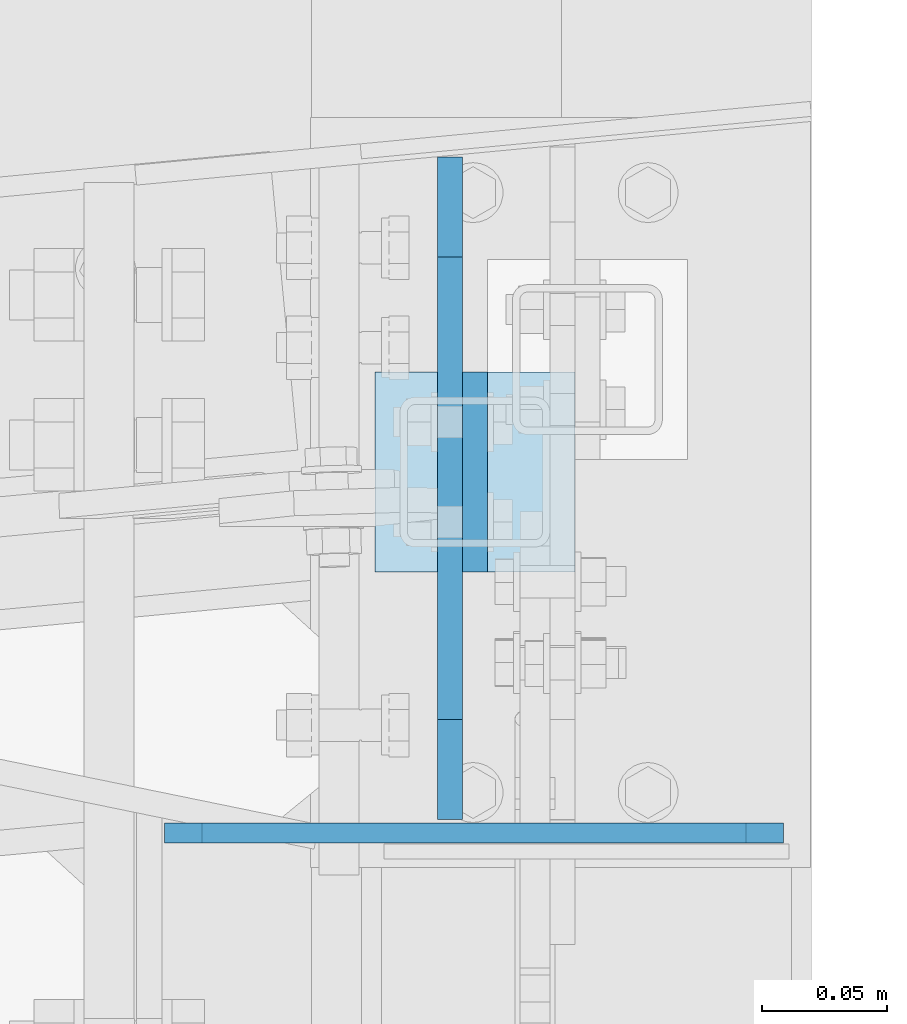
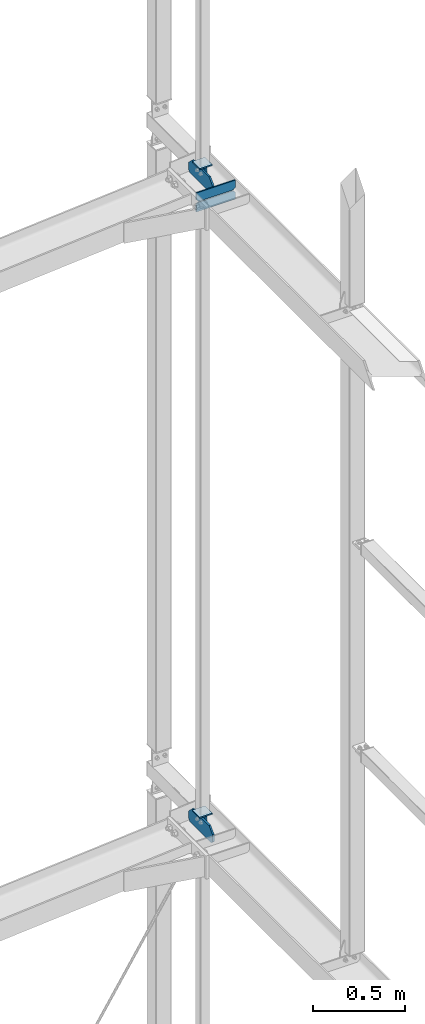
# One storey, part 193 of 271: 8 plates, 4 elements without a shape of their own.
"""IFC2X3 building model written with IfcOpenShell, lengths in millimetres."""

import ifcopenshell
import ifcopenshell.guid

model = None  # the IFC model being written
_history = None  # IfcOwnerHistory: only IFC2X3 demands one
_inside = {}  # id of a spatial element -> (the spatial element, [elements in it])
_under = {}  # id of a project, library or spatial element -> (it, [spatial elements below it])
_declared = {}  # id of a project -> (the project, [libraries it declares])
_typed = {}  # id of a type object -> (the type object, [elements of that type])
_made_of = {}  # id of a material, layer set ... -> (it, [elements and type objects made of it])


def new_model(schema):
    """Start an empty IFC model of exactly this schema.

    Asked for "IFC4X3", IfcOpenShell would pick the latest addendum, in which some entities
    have other attributes; the version numbers below select the first issue.
    IFC2X3 requires an IfcOwnerHistory on every rooted entity: one is made here for all.
    """
    global model, _history
    if schema == "IFC4X3":
        model = ifcopenshell.file(schema_version=(4, 3, 0, 0))
    else:
        model = ifcopenshell.file(schema=schema)
    _inside.clear()
    _under.clear()
    _declared.clear()
    _typed.clear()
    _made_of.clear()
    _history = None
    if model.schema == "IFC2X3":
        org = make("IfcOrganization", Name="unknown")
        user = make(
            "IfcPersonAndOrganization",
            ThePerson=make("IfcPerson", FamilyName="unknown"),
            TheOrganization=org,
        )
        app = make(
            "IfcApplication",
            ApplicationDeveloper=org,
            Version="unknown",
            ApplicationFullName="unknown",
            ApplicationIdentifier="unknown",
        )
        _history = make(
            "IfcOwnerHistory",
            OwningUser=user,
            OwningApplication=app,
            ChangeAction="ADDED",
            CreationDate=0,
        )
    return model


def make(cls, **values):
    """One entity of the class cls with the attributes given. An attribute that is None is left unset."""
    return model.create_entity(
        cls, **{name: value for name, value in values.items() if value is not None}
    )


def rooted(cls, **values):
    """An entity with a GlobalId (a new one), such as an element, a storey or a relation."""
    return make(cls, GlobalId=ifcopenshell.guid.new(), OwnerHistory=_history, **values)


def si_unit(unit_type, name, prefix=None):
    """IfcSIUnit, for example si_unit("LENGTHUNIT", "METRE", prefix="MILLI")."""
    return make("IfcSIUnit", UnitType=unit_type, Prefix=prefix, Name=name)


def assignment(units):
    """IfcUnitAssignment: the units of a project."""
    return None if units is None else make("IfcUnitAssignment", Units=units)


def point(xyz):
    """IfcCartesianPoint."""
    return None if xyz is None else make("IfcCartesianPoint", Coordinates=xyz)


def direction(xyz):
    """IfcDirection."""
    return None if xyz is None else make("IfcDirection", DirectionRatios=xyz)


def frame(location, z_axis=None, x_axis=None):
    """IfcAxis2Placement3D, a coordinate frame: its origin and axes. An axis left out is left unset."""
    return make(
        "IfcAxis2Placement3D",
        Location=point(location),
        Axis=direction(z_axis),
        RefDirection=direction(x_axis),
    )


def origin_with_axes():
    """The frame at (0, 0, 0) with the z axis (0, 0, 1) and the x axis (1, 0, 0) written out."""
    return frame((0.0, 0.0, 0.0), z_axis=(0.0, 0.0, 1.0), x_axis=(1.0, 0.0, 0.0))


def place(relative_to, where):
    """IfcLocalPlacement: puts the frame where relative to a parent placement (None: the world)."""
    return make(
        "IfcLocalPlacement", PlacementRelTo=relative_to, RelativePlacement=where
    )


def context(
    kind, dimensions, precision=None, world=None, true_north=None, identifier=None
):
    """IfcGeometricRepresentationContext, for example the 3D "Model" context."""
    return make(
        "IfcGeometricRepresentationContext",
        ContextIdentifier=identifier,
        ContextType=kind,
        CoordinateSpaceDimension=dimensions,
        Precision=precision,
        WorldCoordinateSystem=world,
        TrueNorth=true_north,
    )


def subcontext(parent, identifier, kind, view, scale=None):
    """IfcGeometricRepresentationSubContext, for example "Body" below "Model"."""
    return make(
        "IfcGeometricRepresentationSubContext",
        ContextIdentifier=identifier,
        ContextType=kind,
        ParentContext=parent,
        TargetScale=scale,
        TargetView=view,
    )


def project(units=None, contexts=None):
    """IfcProject with its units and contexts."""
    return rooted(
        "IfcProject",
        Name="project",
        RepresentationContexts=contexts,
        UnitsInContext=assignment(units),
    )


def spatial(cls, under=None, at=None, **own):
    """A site, building, storey or space (cls), placed at a placement, below another one or the project."""
    s = rooted(cls, ObjectPlacement=at, **own)
    if under is not None:
        _under.setdefault(under.id(), (under, []))[1].append(s)
    return s


def polyline(points):
    """IfcPolyline through the points."""
    return make("IfcPolyline", Points=[point(p) for p in points])


def outline(outer, holes=None, kind="AREA"):
    """IfcArbitraryClosedProfileDef: a profile drawn as a closed curve; with holes, ...WithVoids."""
    if holes is None:
        return make("IfcArbitraryClosedProfileDef", ProfileType=kind, OuterCurve=outer)
    return make(
        "IfcArbitraryProfileDefWithVoids",
        ProfileType=kind,
        OuterCurve=outer,
        InnerCurves=holes,
    )


def extrude(swept, where, along, depth):
    """IfcExtrudedAreaSolid: the profile swept, set in the frame where, extruded along a direction by depth."""
    return make(
        "IfcExtrudedAreaSolid",
        SweptArea=swept,
        Position=where,
        ExtrudedDirection=direction(along),
        Depth=depth,
    )


def shape(context_of_items, identifier, shape_type, items):
    """IfcShapeRepresentation: the items that make up one representation, for example the "Body"."""
    return make(
        "IfcShapeRepresentation",
        ContextOfItems=context_of_items,
        RepresentationIdentifier=identifier,
        RepresentationType=shape_type,
        Items=items,
    )


def material(Name=None, Category=None):
    """IfcMaterial."""
    return make("IfcMaterial", Name=Name, Category=Category)


def made_of(thing, what):
    """Note that an element or type object is made of a material, layer set ...; save() writes the relation."""
    if what is not None:
        _made_of.setdefault(what.id(), (what, []))[1].append(thing)
    return thing


def type_object(cls, material=None, **own):
    """A type object (cls), such as IfcWallType, which elements share."""
    return made_of(rooted(cls, **own), material)


def element(
    cls,
    number,
    at=None,
    inside=None,
    cuts=None,
    type_object=None,
    material=None,
    context=None,
    identifier="Body",
    shape_type=None,
    held_by="IfcProductDefinitionShape",
    body=None,
    shapes=None,
    **own,
):
    """One element of the class cls, such as IfcWall. Its Tag is "e" and its number.

    at: its placement. inside: the storey or other place that contains it. cuts: it is an
    opening in that element (IfcRelVoidsElement). A single representation is given by context,
    identifier, shape_type and body (its items); several are given by shapes. held_by: the class
    of the entity that holds the representations. save() writes the other relations.
    """
    e = rooted(cls, Tag="e%d" % number, ObjectPlacement=at, **own)
    if body is not None:
        shapes = [shape(context, identifier, shape_type, body)]
    if shapes is not None:
        e.Representation = make(held_by, Representations=shapes)
    if inside is not None:
        _inside.setdefault(inside.id(), (inside, []))[1].append(e)
    if cuts is not None:
        rooted(
            "IfcRelVoidsElement", RelatingBuildingElement=cuts, RelatedOpeningElement=e
        )
    if type_object is not None:
        _typed.setdefault(type_object.id(), (type_object, []))[1].append(e)
    return made_of(e, material)


def aggregate(whole, parts):
    """IfcRelAggregates: a whole, such as a stair, and the parts it consists of."""
    return rooted("IfcRelAggregates", RelatingObject=whole, RelatedObjects=parts)


def save(model, path):
    """Write the relations noted so far, then the file.

    IfcRelAggregates (storeys below a building ...), IfcRelContainedInSpatialStructure (elements
    in a storey), IfcRelDefinesByType, IfcRelAssociatesMaterial and IfcRelDeclares: one each for
    every whole, place, type object, material and project.
    """
    for whole, parts in _under.values():
        aggregate(whole, parts)
    for where, things in _inside.values():
        rooted(
            "IfcRelContainedInSpatialStructure",
            RelatedElements=things,
            RelatingStructure=where,
        )
    for kind, things in _typed.values():
        rooted("IfcRelDefinesByType", RelatedObjects=things, RelatingType=kind)
    for what, things in _made_of.values():
        rooted("IfcRelAssociatesMaterial", RelatedObjects=things, RelatingMaterial=what)
    for by, libraries in _declared.values():
        rooted("IfcRelDeclares", RelatingContext=by, RelatedDefinitions=libraries)
    model.write(path)


model = new_model("IFC2X3")

# Units and contexts
model_context = context("Model", 3, precision=1e-05, world=origin_with_axes())
body_context = subcontext(model_context, "Body", "Model", "MODEL_VIEW")
ifc_project = project(units=[si_unit("LENGTHUNIT", "METRE", prefix="MILLI"), si_unit("AREAUNIT", "SQUARE_METRE"), si_unit("VOLUMEUNIT", "CUBIC_METRE"), si_unit("MASSUNIT", "GRAM", prefix="KILO"), si_unit("TIMEUNIT", "SECOND"), si_unit("PLANEANGLEUNIT", "RADIAN"), si_unit("SOLIDANGLEUNIT", "STERADIAN"), si_unit("THERMODYNAMICTEMPERATUREUNIT", "DEGREE_CELSIUS"), si_unit("LUMINOUSINTENSITYUNIT", "LUMEN")], contexts=[model_context])

# Site, building, storey
site_placement = place(None, origin_with_axes())
site = spatial("IfcSite", under=ifc_project, at=site_placement, Name="Undefined", CompositionType="ELEMENT")
building_placement = place(site_placement, origin_with_axes())
building = spatial("IfcBuilding", under=site, at=building_placement, Name="Undefined", CompositionType="ELEMENT")
storey_placement = place(building_placement, origin_with_axes())
storey = spatial("IfcBuildingStorey", under=building, at=storey_placement, Name="Undefined", CompositionType="ELEMENT", Elevation=0.0)

# Assembly, plate
assembly_1_placement = place(storey_placement, origin_with_axes())
assembly_1 = element("IfcElementAssembly", 1, at=assembly_1_placement, inside=storey, AssemblyPlace="NOTDEFINED", PredefinedType="RIGID_FRAME")
ifc_material = material(Name="STEEL/S355JR")
plate_type_1 = type_object("IfcPlateType", Name="BL10*70", PredefinedType="NOTDEFINED")
plate_1_placement = place(assembly_1_placement, frame((12573.751374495, 4252.19355050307, 5752.64999985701), z_axis=(1.0, 0.0, 0.0), x_axis=(0.0, 0.707106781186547, -0.707106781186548)))
plate_1 = element("IfcPlate", 2, at=plate_1_placement, type_object=plate_type_1, material=ifc_material, Name="BLACHA", ObjectType="BL10*70", context=body_context, shape_type="SweptSolid", body=[
    extrude(outline(polyline([(0.0, 0.0), (21.2132034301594, 1.09139364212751e-11), (56.5685424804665, 35.3553390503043), (56.568542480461, 56.5685424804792), (17.6776695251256, 95.4594192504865), (-38.890872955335, 38.8908729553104), (0.0, 0.0)])), frame((0.0, 0.0, -5.0), z_axis=(0.0, 0.0, 1.0), x_axis=(1.0, 0.0, 0.0)), (0.0, 0.0, 1.0), 10.0),
])

assembly_2_placement = place(storey_placement, origin_with_axes())
assembly_2 = element("IfcElementAssembly", 3, at=assembly_2_placement, inside=storey, AssemblyPlace="NOTDEFINED", PredefinedType="RIGID_FRAME")
plate_2_placement = place(assembly_2_placement, frame((12573.751374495, 4252.19355050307, 10072.649999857), z_axis=(1.0, 0.0, 0.0), x_axis=(0.0, 0.707106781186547, -0.707106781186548)))
plate_2 = element("IfcPlate", 4, at=plate_2_placement, type_object=plate_type_1, material=ifc_material, Name="BLACHA", ObjectType="BL10*70", context=body_context, shape_type="SweptSolid", body=[
    extrude(outline(polyline([(0.0, 0.0), (21.2132034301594, 1.09139364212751e-11), (56.5685424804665, 35.3553390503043), (56.568542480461, 56.5685424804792), (17.6776695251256, 95.4594192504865), (-38.890872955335, 38.8908729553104), (0.0, 0.0)])), frame((0.0, 0.0, -5.0), z_axis=(0.0, 0.0, 1.0), x_axis=(1.0, 0.0, 0.0)), (0.0, 0.0, 1.0), 10.0),
])

assembly_3_placement = place(storey_placement, origin_with_axes())
assembly_3 = element("IfcElementAssembly", 5, at=assembly_3_placement, inside=storey, AssemblyPlace="NOTDEFINED", PredefinedType="RIGID_FRAME")
plate_type_2 = type_object("IfcPlateType", Name="BL10*100", PredefinedType="NOTDEFINED")
plate_3_placement = place(assembly_3_placement, frame((12563.751374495, 4153.19355050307, 5687.64999985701), z_axis=(1.0, 0.0, 0.0), x_axis=(0.0, 1.0, 0.0)))
plate_3 = element("IfcPlate", 6, at=plate_3_placement, type_object=plate_type_2, material=ifc_material, Name="BLACHA", ObjectType="BL10*100", context=body_context, shape_type="SweptSolid", body=[
    extrude(outline(polyline([(0.0, 15.0), (15.0, -1.59872115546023e-14), (250.0, -1.4210854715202e-14), (265.0, 15.0), (265.0, 60.0000000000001), (225.0, 100.0), (40.0, 100.0), (0.0, 60.0), (0.0, 15.0)])), frame((0.0, 0.0, -5.0), z_axis=(0.0, 0.0, 1.0), x_axis=(1.0, 0.0, 0.0)), (0.0, 0.0, 1.0), 10.0),
])
aggregate(assembly_3, [plate_3])

assembly_4_placement = place(storey_placement, origin_with_axes())
assembly_4 = element("IfcElementAssembly", 7, at=assembly_4_placement, inside=storey, AssemblyPlace="NOTDEFINED", PredefinedType="RIGID_FRAME")
plate_4_placement = place(assembly_4_placement, frame((12563.751374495, 4153.19355050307, 10007.649999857), z_axis=(1.0, 0.0, 0.0), x_axis=(0.0, 1.0, 0.0)))
plate_4 = element("IfcPlate", 8, at=plate_4_placement, type_object=plate_type_2, material=ifc_material, Name="BLACHA", ObjectType="BL10*100", context=body_context, shape_type="SweptSolid", body=[
    extrude(outline(polyline([(0.0, 15.0), (15.0, -1.59872115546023e-14), (250.0, -1.4210854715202e-14), (265.0, 15.0), (265.0, 60.0000000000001), (225.0, 100.0), (40.0, 100.0), (0.0, 60.0), (0.0, 15.0)])), frame((0.0, 0.0, -5.0), z_axis=(0.0, 0.0, 1.0), x_axis=(1.0, 0.0, 0.0)), (0.0, 0.0, 1.0), 10.0),
])

# Plate
plate_type_3 = type_object("IfcPlateType", Name="BL8*80", PredefinedType="NOTDEFINED")
plate_5_placement = place(assembly_1_placement, frame((12533.751374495, 4252.19355050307, 5811.64999985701), z_axis=(0.0, 0.0, -1.0), x_axis=(0.0, 1.0, 0.0)))
plate_5 = element("IfcPlate", 9, at=plate_5_placement, type_object=plate_type_3, material=ifc_material, Name="BLACHA", ObjectType="BL8*80", context=body_context, shape_type="SweptSolid", body=[
    extrude(outline(polyline([(0.0, 0.0), (80.0, 0.0), (80.0, 80.0), (0.0, 80.0), (0.0, 0.0)])), frame((0.0, 0.0, -4.0), z_axis=(0.0, 0.0, 1.0), x_axis=(1.0, 0.0, 0.0)), (0.0, 0.0, 1.0), 8.0),
])

aggregate(assembly_1, [plate_5, plate_1])

plate_6_placement = place(assembly_2_placement, frame((12533.751374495, 4252.19355050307, 10131.649999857), z_axis=(0.0, 0.0, -1.0), x_axis=(0.0, 1.0, 0.0)))
plate_6 = element("IfcPlate", 10, at=plate_6_placement, type_object=plate_type_3, material=ifc_material, Name="BLACHA", ObjectType="BL8*80", context=body_context, shape_type="SweptSolid", body=[
    extrude(outline(polyline([(0.0, 0.0), (80.0, 0.0), (80.0, 80.0), (0.0, 80.0), (0.0, 0.0)])), frame((0.0, 0.0, -4.0), z_axis=(0.0, 0.0, 1.0), x_axis=(1.0, 0.0, 0.0)), (0.0, 0.0, 1.0), 8.0),
])

aggregate(assembly_2, [plate_2, plate_6])

plate_type_4 = type_object("IfcPlateType", Name="BL8*60", PredefinedType="NOTDEFINED")
plate_7_placement = place(assembly_4_placement, frame((12449.5756869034, 4147.85328603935, 9941.04999995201), z_axis=(0.0, 1.0, 0.0), x_axis=(0.0, 0.0, 1.0)))
plate_7 = element("IfcPlate", 11, at=plate_7_placement, type_object=plate_type_4, material=ifc_material, Name="BLACHA", ObjectType="BL8*60", context=body_context, shape_type="SweptSolid", body=[
    extrude(outline(polyline([(0.0, 0.0), (45.0, 0.0), (60.0, 15.0), (60.0, 232.600006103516), (45.0, 247.600006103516), (0.0, 247.600006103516), (0.0, 0.0)])), frame((0.0, 0.0, -4.0), z_axis=(0.0, 0.0, 1.0), x_axis=(1.0, 0.0, 0.0)), (0.0, 0.0, 1.0), 8.0),
])

plate_8_placement = place(assembly_4_placement, frame((12449.5756869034, 4147.85328603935, 10067.649999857), z_axis=(0.0, -1.0, 0.0), x_axis=(0.0, 0.0, -1.0)))
plate_8 = element("IfcPlate", 12, at=plate_8_placement, type_object=plate_type_4, material=ifc_material, Name="BLACHA", ObjectType="BL8*60", context=body_context, shape_type="SweptSolid", body=[
    extrude(outline(polyline([(0.0, 0.0), (45.0, 0.0), (60.0, 15.0), (60.0, 232.600006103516), (45.0, 247.600006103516), (0.0, 247.600006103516), (0.0, 0.0)])), frame((0.0, 0.0, -4.0), z_axis=(0.0, 0.0, 1.0), x_axis=(1.0, 0.0, 0.0)), (0.0, 0.0, 1.0), 8.0),
])

aggregate(assembly_4, [plate_4, plate_7, plate_8])

save(model, "model.ifc")
